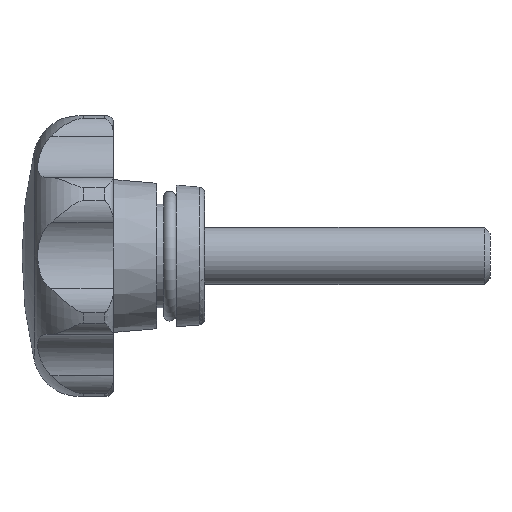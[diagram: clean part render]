
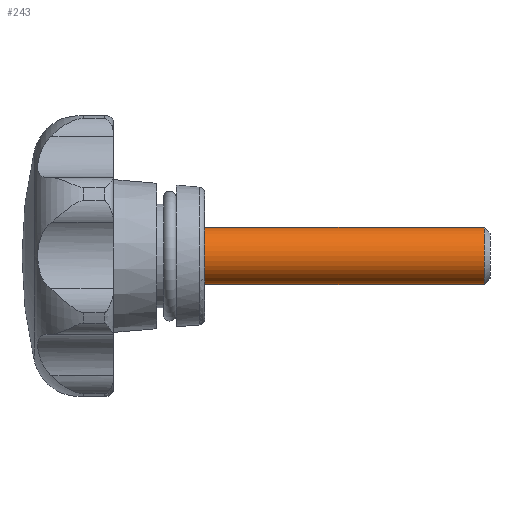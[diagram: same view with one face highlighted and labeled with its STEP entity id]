
A CAD part, left-side view. The second image highlights one B-rep face of the part: STEP entity #243.
In plain terms, the highlighted cylindrical face has radius 2.5 mm (diameter 5 mm), a full revolution.
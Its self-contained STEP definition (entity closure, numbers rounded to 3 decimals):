
#243 = ADVANCED_FACE( '', ( #515, #516 ), #517, .T. );
#515 = FACE_OUTER_BOUND( '', #911, .T. );
#516 = FACE_OUTER_BOUND( '', #912, .T. );
#517 = CYLINDRICAL_SURFACE( '', #913, 2.5 );
#911 = EDGE_LOOP( '', ( #1673 ) );
#912 = EDGE_LOOP( '', ( #1674 ) );
#913 = AXIS2_PLACEMENT_3D( '', #1675, #1676, #1677 );
#1673 = ORIENTED_EDGE( '', *, *, #2717, .F. );
#1674 = ORIENTED_EDGE( '', *, *, #2718, .T. );
#1675 = CARTESIAN_POINT( '', ( 0., -25., 0. ) );
#1676 = DIRECTION( '', ( 0., 1., 0. ) );
#1677 = DIRECTION( '', ( 0., 0., -1. ) );
#2717 = EDGE_CURVE( '', #3322, #3322, #3323, .T. );
#2718 = EDGE_CURVE( '', #3324, #3324, #3325, .T. );
#3322 = VERTEX_POINT( '', #4786 );
#3323 = CIRCLE( '', #4787, 2.5 );
#3324 = VERTEX_POINT( '', #4788 );
#3325 = CIRCLE( '', #4789, 2.5 );
#4786 = CARTESIAN_POINT( '', ( 0., -24.51, -2.5 ) );
#4787 = AXIS2_PLACEMENT_3D( '', #5728, #5729, #5730 );
#4788 = CARTESIAN_POINT( '', ( 0., 0., -2.5 ) );
#4789 = AXIS2_PLACEMENT_3D( '', #5731, #5732, #5733 );
#5728 = CARTESIAN_POINT( '', ( 0., -24.51, 0. ) );
#5729 = DIRECTION( '', ( 0., -1., 0. ) );
#5730 = DIRECTION( '', ( 0., 0., -1. ) );
#5731 = CARTESIAN_POINT( '', ( 0., 0., 0. ) );
#5732 = DIRECTION( '', ( 0., -1., 0. ) );
#5733 = DIRECTION( '', ( 0., 0., -1. ) );
